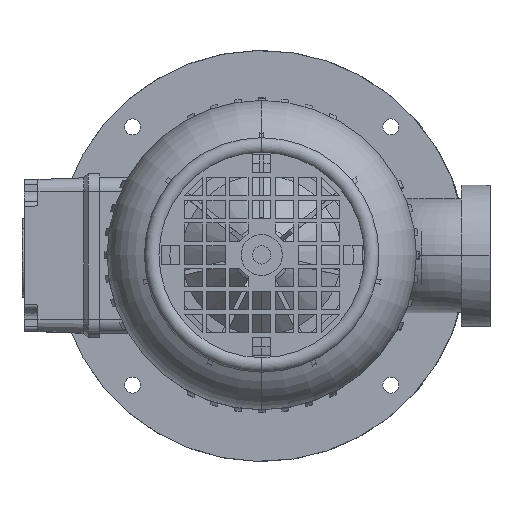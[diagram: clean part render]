
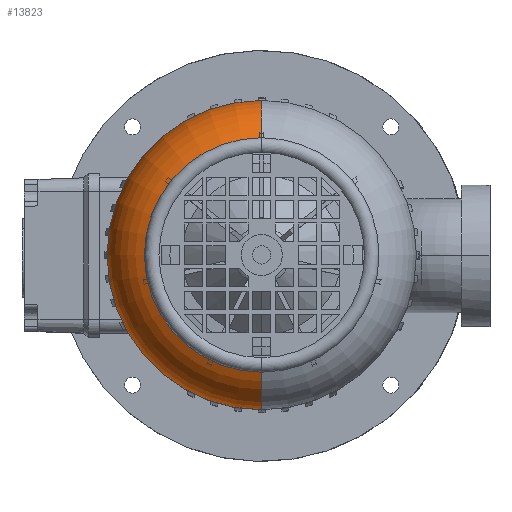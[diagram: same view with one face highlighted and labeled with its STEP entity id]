
A CAD part, top view. The second image highlights one B-rep face of the part: STEP entity #13823.
In plain terms, the highlighted toroidal (fillet/blend) face has major radius 39.75 mm and minor radius 28 mm.
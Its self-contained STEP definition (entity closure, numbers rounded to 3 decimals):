
#6231=VERTEX_POINT('',#15937);
#6527=EDGE_CURVE('',#6231,#14065,#16313,.T.);
#8843=EDGE_CURVE('',#11841,#11533,#18868,.T.);
#11533=VERTEX_POINT('',#21799);
#11593=EDGE_CURVE('',#11841,#6231,#21915,.T.);
#11841=VERTEX_POINT('',#22189);
#12545=EDGE_CURVE('',#14065,#11533,#22958,.T.);
#13823=ADVANCED_FACE('',(#24351),#24352,.T.);
#14065=VERTEX_POINT('',#24620);
#15937=CARTESIAN_POINT('',(0.,-67.75,169.0));
#16313=CIRCLE('',#28415,67.75);
#18868=CIRCLE('',#33372,51.372);
#21799=CARTESIAN_POINT('',(0.0,51.372,194.474));
#21915=CIRCLE('',#39283,28.);
#22189=CARTESIAN_POINT('',(0.,-51.372,194.474));
#22958=CIRCLE('',#41297,28.);
#24351=FACE_OUTER_BOUND('',#43901,.T.);
#24352=TOROIDAL_SURFACE('',#43902,39.75,28.);
#24620=CARTESIAN_POINT('',(0.0,67.75,169.0));
#28415=AXIS2_PLACEMENT_3D('',#47485,#47486,#47487);
#33372=AXIS2_PLACEMENT_3D('',#50291,#50292,#50293);
#39283=AXIS2_PLACEMENT_3D('',#53638,#53639,#53640);
#41297=AXIS2_PLACEMENT_3D('',#54757,#54758,#54759);
#43901=EDGE_LOOP('',(#56211,#56212,#56213,#56214));
#43902=AXIS2_PLACEMENT_3D('',#56215,#56216,#56217);
#47485=CARTESIAN_POINT('',(0.0,0.0,169.0));
#47486=DIRECTION('',(0.0,0.0,-1.0));
#47487=DIRECTION('',(0.0,1.0,0.0));
#50291=CARTESIAN_POINT('',(0.0,0.0,194.474));
#50292=DIRECTION('',(0.0,0.0,-1.0));
#50293=DIRECTION('',(0.0,1.0,0.0));
#53638=CARTESIAN_POINT('',(0.,-39.75,169.0));
#53639=DIRECTION('',(1.0,0.,0.0));
#53640=DIRECTION('',(0.,-1.0,-0.0));
#54757=CARTESIAN_POINT('',(0.,39.75,169.0));
#54758=DIRECTION('',(1.0,0.,0.0));
#54759=DIRECTION('',(0.,1.0,0.0));
#56211=ORIENTED_EDGE('',*,*,#11593,.F.);
#56212=ORIENTED_EDGE('',*,*,#8843,.T.);
#56213=ORIENTED_EDGE('',*,*,#12545,.F.);
#56214=ORIENTED_EDGE('',*,*,#6527,.F.);
#56215=CARTESIAN_POINT('',(0.0,0.0,169.0));
#56216=DIRECTION('',(0.0,0.0,-1.0));
#56217=DIRECTION('',(0.0,-1.0,0.0));
